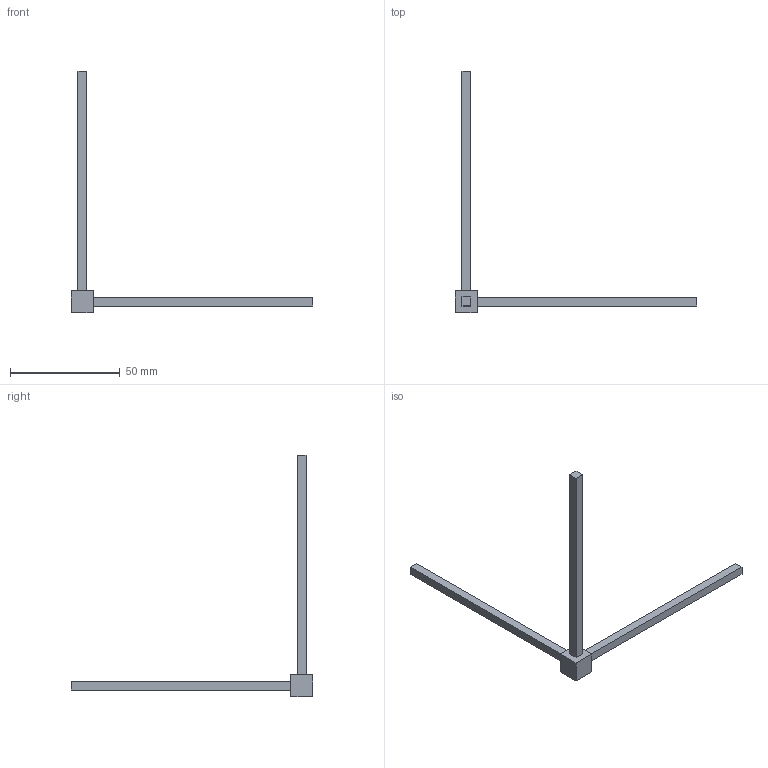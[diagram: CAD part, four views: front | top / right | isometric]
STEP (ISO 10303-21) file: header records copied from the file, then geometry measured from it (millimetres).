
FILE_DESCRIPTION(('Open CASCADE Model'),'2;1');
FILE_NAME('Open CASCADE Shape Model','2026-09-11T00:07:31',('Author'),( 'Open CASCADE'),'Open CASCADE STEP processor 7.9','Open CASCADE 7.9' ,'Unknown');
FILE_SCHEMA(('AUTOMOTIVE_DESIGN { 1 0 10303 214 1 1 1 1 }'));
Length unit declared in the file: millimetre
Products named in the file (5): Open CASCADE STEP translator 7.9 2; Open CASCADE STEP translator 7.9 2.1; Open CASCADE STEP translator 7.9 2.2; Open CASCADE STEP translator 7.9 2.3; Open CASCADE STEP translator 7.9 2.4
Assembly tree (4 placements, depth 2):
  Open CASCADE STEP translator 7.9 2
    Open CASCADE STEP translator 7.9 2.1
    Open CASCADE STEP translator 7.9 2.2
    Open CASCADE STEP translator 7.9 2.3
    Open CASCADE STEP translator 7.9 2.4
Bounding box: 110 x 110 x 110 mm (x, y, z)
Volume: 5800 mm3; surface area: 5496 mm2
Topology: 4 solids, 4 shells, 24 faces, 48 edges, 32 vertices
Faces by surface type: plane 24
Entity records: 1312 total; most frequent: CARTESIAN_POINT 205, DIRECTION 202, LINE 144, VECTOR 144, ORIENTED_EDGE 96, PCURVE 96, DEFINITIONAL_REPRESENTATION 96, EDGE_CURVE 48
